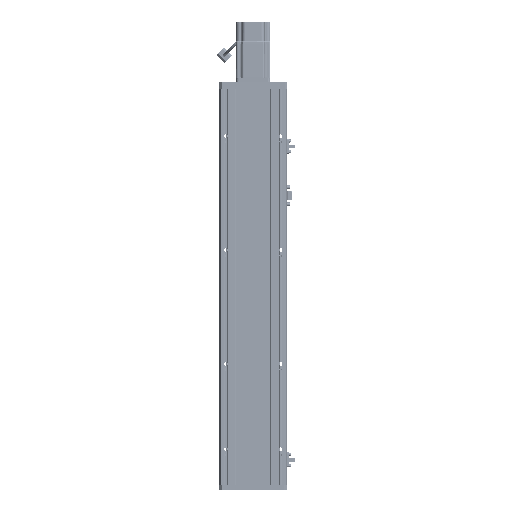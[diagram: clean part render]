
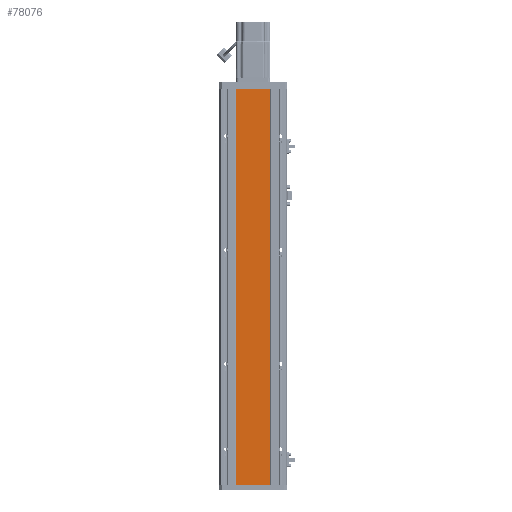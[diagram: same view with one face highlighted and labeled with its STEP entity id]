
A CAD part, front view. The second image highlights one B-rep face of the part: STEP entity #78076.
In plain terms, the highlighted planar face has unit normal (0, -1, 0).
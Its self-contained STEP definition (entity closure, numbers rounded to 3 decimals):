
#3497 = CARTESIAN_POINT ( 'NONE',  ( 30., 0., -696.5 ) ) ;
#10420 = DIRECTION ( 'NONE',  ( 0., 0., 1. ) ) ;
#14953 = CARTESIAN_POINT ( 'NONE',  ( 30., 0., 0. ) ) ;
#18644 = AXIS2_PLACEMENT_3D ( 'NONE', #3497, #45362, #70665 ) ;
#18754 = DIRECTION ( 'NONE',  ( -1., 0., 0. ) ) ;
#21986 = EDGE_CURVE ( 'NONE', #39079, #65186, #105638, .T. ) ;
#26839 = ORIENTED_EDGE ( 'NONE', *, *, #21986, .F. ) ;
#26869 = CARTESIAN_POINT ( 'NONE',  ( 30., 0., -696.5 ) ) ;
#34293 = CARTESIAN_POINT ( 'NONE',  ( -30., 0., -696.5 ) ) ;
#39079 = VERTEX_POINT ( 'NONE', #81548 ) ;
#39503 = VECTOR ( 'NONE', #39885, 1000. ) ;
#39885 = DIRECTION ( 'NONE',  ( -1., 0., 0. ) ) ;
#43533 = VECTOR ( 'NONE', #10420, 1000. ) ;
#44776 = FACE_OUTER_BOUND ( 'NONE', #75570, .T. ) ;
#45362 = DIRECTION ( 'NONE',  ( 0., 1., 0. ) ) ;
#46128 = VERTEX_POINT ( 'NONE', #66951 ) ;
#47073 = VERTEX_POINT ( 'NONE', #88950 ) ;
#50757 = EDGE_CURVE ( 'NONE', #65186, #47073, #73031, .T. ) ;
#50807 = VECTOR ( 'NONE', #54821, 1000. ) ;
#54821 = DIRECTION ( 'NONE',  ( 0., 0., 1. ) ) ;
#58338 = VECTOR ( 'NONE', #18754, 1000. ) ;
#58885 = EDGE_CURVE ( 'NONE', #39079, #46128, #65888, .T. ) ;
#60282 = CARTESIAN_POINT ( 'NONE',  ( 30., 0., -696.5 ) ) ;
#65186 = VERTEX_POINT ( 'NONE', #34293 ) ;
#65888 = LINE ( 'NONE', #26869, #43533 ) ;
#66951 = CARTESIAN_POINT ( 'NONE',  ( 30., 0., 0. ) ) ;
#70665 = DIRECTION ( 'NONE',  ( -1., 0., 0. ) ) ;
#72820 = ORIENTED_EDGE ( 'NONE', *, *, #103638, .T. ) ;
#73031 = LINE ( 'NONE', #88460, #50807 ) ;
#75570 = EDGE_LOOP ( 'NONE', ( #72820, #86457, #26839, #108406 ) ) ;
#78076 = ADVANCED_FACE ( 'NONE', ( #44776 ), #104117, .F. ) ;
#81449 = LINE ( 'NONE', #14953, #39503 ) ;
#81548 = CARTESIAN_POINT ( 'NONE',  ( 30., 0., -696.5 ) ) ;
#86457 = ORIENTED_EDGE ( 'NONE', *, *, #50757, .F. ) ;
#88460 = CARTESIAN_POINT ( 'NONE',  ( -30., 0., -696.5 ) ) ;
#88950 = CARTESIAN_POINT ( 'NONE',  ( -30., 0., 0. ) ) ;
#103638 = EDGE_CURVE ( 'NONE', #46128, #47073, #81449, .T. ) ;
#104117 = PLANE ( 'NONE',  #18644 ) ;
#105638 = LINE ( 'NONE', #60282, #58338 ) ;
#108406 = ORIENTED_EDGE ( 'NONE', *, *, #58885, .T. ) ;
